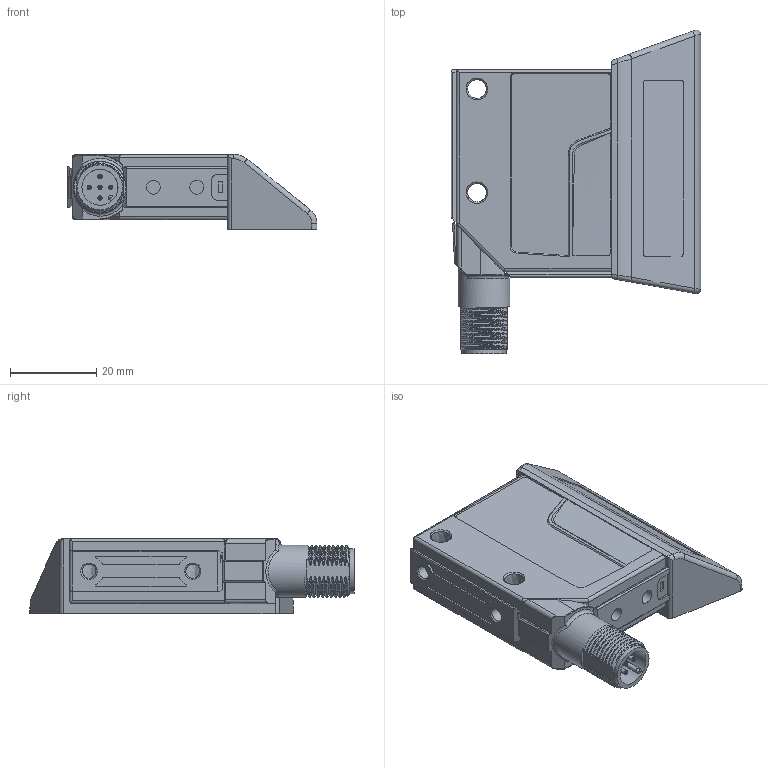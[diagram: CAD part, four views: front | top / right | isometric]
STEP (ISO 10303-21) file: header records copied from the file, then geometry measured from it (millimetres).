
FILE_DESCRIPTION(/* description */ (''),/* implementation_level */ '2;1');
FILE_NAME(/* name */ '3DCAD_BCL8_UM_Stecker_unten.stp',/* time_stamp */ '2018-01-30T14:46:17+01:00',/* author */ ('CC2'),/* organization */ ('Leuze electronic'),/* preprocessor_version */ 'ST-DEVELOPER v16',/* originating_system */ 'SIEMENS PLM Software NX 11.0',/* authorisation */ '');
FILE_SCHEMA (('AUTOMOTIVE_DESIGN { 1 0 10303 214 3 1 1 1 }'));
Products named in the file (1): 17-100091_00.0_1-3DCAD_BCL8_UM_Stecker_unten
Bounding box: 57.82 x 74.98 x 17.4 mm (x, y, z)
Volume: 38627.2 mm3; surface area: 10868 mm2
Topology: 1 solids, 2 shells, 334 faces, 930 edges, 618 vertices
Faces by surface type: plane 114, cylinder 102, bspline 99, cone 12, torus 7
Full cylindrical faces by diameter (mm): 1 x5, 3.2 x4, 8.35 x1, 10.4 x1, 12 x1, 12.8 x1
Entity records: 38855 total; most frequent: CARTESIAN_POINT 30955, ORIENTED_EDGE 1768, DIRECTION 1194, EDGE_CURVE 884, VERTEX_POINT 604, AXIS2_PLACEMENT_3D 415, EDGE_LOOP 394, LINE 364
